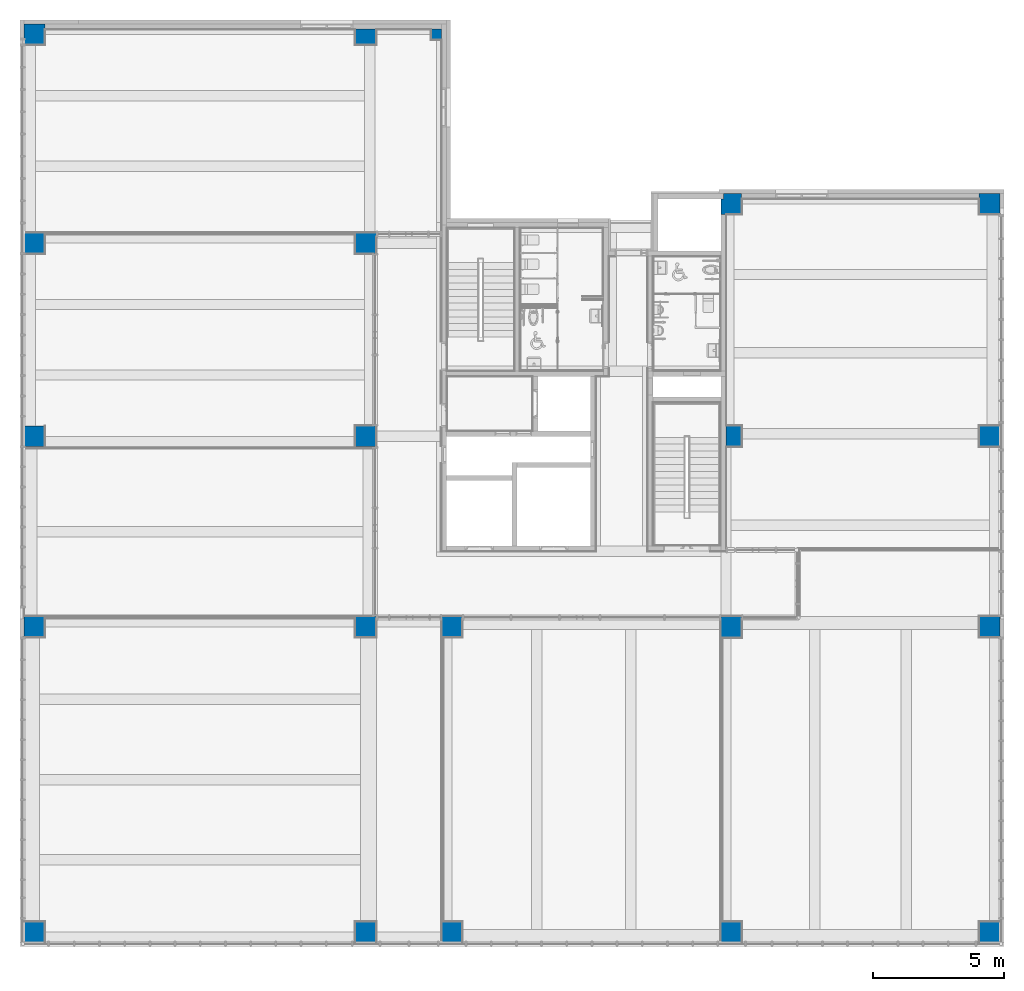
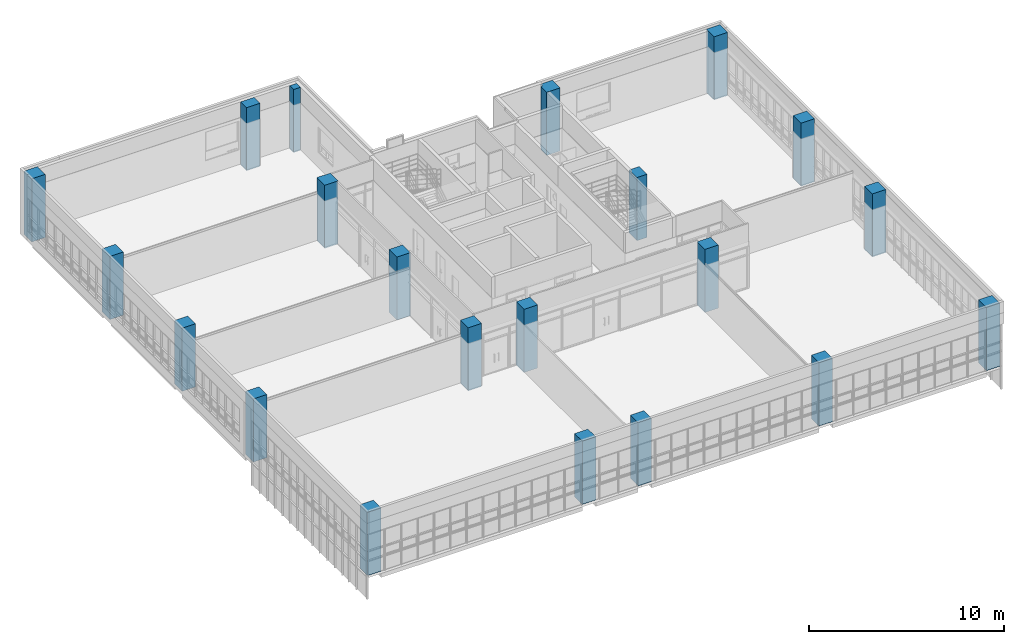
# One storey, part 1 of 81: 21 columns.
"""IFC2X3 building model written with IfcOpenShell, lengths in millimetres."""

import ifcopenshell
import ifcopenshell.guid

model = None  # the IFC model being written
_history = None  # IfcOwnerHistory: only IFC2X3 demands one
_inside = {}  # id of a spatial element -> (the spatial element, [elements in it])
_under = {}  # id of a project, library or spatial element -> (it, [spatial elements below it])
_declared = {}  # id of a project -> (the project, [libraries it declares])
_typed = {}  # id of a type object -> (the type object, [elements of that type])
_made_of = {}  # id of a material, layer set ... -> (it, [elements and type objects made of it])


def new_model(schema):
    """Start an empty IFC model of exactly this schema.

    Asked for "IFC4X3", IfcOpenShell would pick the latest addendum, in which some entities
    have other attributes; the version numbers below select the first issue.
    IFC2X3 requires an IfcOwnerHistory on every rooted entity: one is made here for all.
    """
    global model, _history
    if schema == "IFC4X3":
        model = ifcopenshell.file(schema_version=(4, 3, 0, 0))
    else:
        model = ifcopenshell.file(schema=schema)
    _inside.clear()
    _under.clear()
    _declared.clear()
    _typed.clear()
    _made_of.clear()
    _history = None
    if model.schema == "IFC2X3":
        org = make("IfcOrganization", Name="unknown")
        user = make(
            "IfcPersonAndOrganization",
            ThePerson=make("IfcPerson", FamilyName="unknown"),
            TheOrganization=org,
        )
        app = make(
            "IfcApplication",
            ApplicationDeveloper=org,
            Version="unknown",
            ApplicationFullName="unknown",
            ApplicationIdentifier="unknown",
        )
        _history = make(
            "IfcOwnerHistory",
            OwningUser=user,
            OwningApplication=app,
            ChangeAction="ADDED",
            CreationDate=0,
        )
    return model


def make(cls, **values):
    """One entity of the class cls with the attributes given. An attribute that is None is left unset."""
    return model.create_entity(
        cls, **{name: value for name, value in values.items() if value is not None}
    )


def entity(cls, *values):
    """Any entity or typed value of the class cls, its attributes in the order of the schema. None: left unset."""
    e = model.create_entity(cls)
    for i, value in enumerate(values):
        if value is not None:
            e[i] = value
    return e


def rooted(cls, **values):
    """An entity with a GlobalId (a new one), such as an element, a storey or a relation."""
    return make(cls, GlobalId=ifcopenshell.guid.new(), OwnerHistory=_history, **values)


def si_unit(unit_type, name, prefix=None):
    """IfcSIUnit, for example si_unit("LENGTHUNIT", "METRE", prefix="MILLI")."""
    return make("IfcSIUnit", UnitType=unit_type, Prefix=prefix, Name=name)


def converted_unit(unit_type, name, factor, base, dimensions=None, offset=None):
    """IfcConversionBasedUnit, such as the inch: factor (a typed value) times the base unit."""
    return make(
        "IfcConversionBasedUnit"
        if offset is None
        else "IfcConversionBasedUnitWithOffset",
        ConversionOffset=offset,
        Dimensions=None
        if dimensions is None
        else entity("IfcDimensionalExponents", *dimensions),
        UnitType=unit_type,
        Name=name,
        ConversionFactor=make(
            "IfcMeasureWithUnit", ValueComponent=factor, UnitComponent=base
        ),
    )


def derived_unit(unit_type, elements):
    """IfcDerivedUnit: a product of units, each with its exponent."""
    return make(
        "IfcDerivedUnit",
        Elements=[
            make("IfcDerivedUnitElement", Unit=unit, Exponent=power)
            for unit, power in elements
        ],
        UnitType=unit_type,
    )


def assignment(units):
    """IfcUnitAssignment: the units of a project."""
    return None if units is None else make("IfcUnitAssignment", Units=units)


def point(xyz):
    """IfcCartesianPoint."""
    return None if xyz is None else make("IfcCartesianPoint", Coordinates=xyz)


def direction(xyz):
    """IfcDirection."""
    return None if xyz is None else make("IfcDirection", DirectionRatios=xyz)


def frame(location, z_axis=None, x_axis=None):
    """IfcAxis2Placement3D, a coordinate frame: its origin and axes. An axis left out is left unset."""
    return make(
        "IfcAxis2Placement3D",
        Location=point(location),
        Axis=direction(z_axis),
        RefDirection=direction(x_axis),
    )


def frame_2d(location, x_axis=None):
    """IfcAxis2Placement2D, a coordinate frame in the plane: its origin and x axis."""
    return make(
        "IfcAxis2Placement2D", Location=point(location), RefDirection=direction(x_axis)
    )


def origin():
    """The frame at (0, 0, 0) with its axes left unset."""
    return frame((0.0, 0.0, 0.0))


def origin_2d_with_axis():
    """The frame at (0, 0) in the plane with the x axis (1, 0) written out."""
    return frame_2d((0.0, 0.0), x_axis=(1.0, 0.0))


def place(relative_to, where):
    """IfcLocalPlacement: puts the frame where relative to a parent placement (None: the world)."""
    return make(
        "IfcLocalPlacement", PlacementRelTo=relative_to, RelativePlacement=where
    )


def context(
    kind, dimensions, precision=None, world=None, true_north=None, identifier=None
):
    """IfcGeometricRepresentationContext, for example the 3D "Model" context."""
    return make(
        "IfcGeometricRepresentationContext",
        ContextIdentifier=identifier,
        ContextType=kind,
        CoordinateSpaceDimension=dimensions,
        Precision=precision,
        WorldCoordinateSystem=world,
        TrueNorth=true_north,
    )


def subcontext(parent, identifier, kind, view, scale=None):
    """IfcGeometricRepresentationSubContext, for example "Body" below "Model"."""
    return make(
        "IfcGeometricRepresentationSubContext",
        ContextIdentifier=identifier,
        ContextType=kind,
        ParentContext=parent,
        TargetScale=scale,
        TargetView=view,
    )


def project(units=None, contexts=None):
    """IfcProject with its units and contexts."""
    return rooted(
        "IfcProject",
        Name="project",
        RepresentationContexts=contexts,
        UnitsInContext=assignment(units),
    )


def spatial(cls, under=None, at=None, **own):
    """A site, building, storey or space (cls), placed at a placement, below another one or the project."""
    s = rooted(cls, ObjectPlacement=at, **own)
    if under is not None:
        _under.setdefault(under.id(), (under, []))[1].append(s)
    return s


def polyline(points):
    """IfcPolyline through the points."""
    return make("IfcPolyline", Points=[point(p) for p in points])


def profile(cls, at=None, kind="AREA", **sizes):
    """A parametric profile (cls). Its sizes go by their IFC names, for example OverallWidth=200.0."""
    return make(cls, ProfileType=kind, Position=at, **sizes)


def rectangle(**sizes):
    """IfcRectangleProfileDef."""
    return profile("IfcRectangleProfileDef", **sizes)


def outline(outer, holes=None, kind="AREA"):
    """IfcArbitraryClosedProfileDef: a profile drawn as a closed curve; with holes, ...WithVoids."""
    if holes is None:
        return make("IfcArbitraryClosedProfileDef", ProfileType=kind, OuterCurve=outer)
    return make(
        "IfcArbitraryProfileDefWithVoids",
        ProfileType=kind,
        OuterCurve=outer,
        InnerCurves=holes,
    )


def extrude(swept, where, along, depth):
    """IfcExtrudedAreaSolid: the profile swept, set in the frame where, extruded along a direction by depth."""
    return make(
        "IfcExtrudedAreaSolid",
        SweptArea=swept,
        Position=where,
        ExtrudedDirection=direction(along),
        Depth=depth,
    )


def shape(context_of_items, identifier, shape_type, items):
    """IfcShapeRepresentation: the items that make up one representation, for example the "Body"."""
    return make(
        "IfcShapeRepresentation",
        ContextOfItems=context_of_items,
        RepresentationIdentifier=identifier,
        RepresentationType=shape_type,
        Items=items,
    )


def source(mapping_origin, context_of_items, identifier, shape_type, items):
    """IfcRepresentationMap: a shape defined once, which mapped items show again and again."""
    return make(
        "IfcRepresentationMap",
        MappingOrigin=mapping_origin,
        MappedRepresentation=shape(context_of_items, identifier, shape_type, items),
    )


def transform(
    local_origin,
    x_axis=None,
    y_axis=None,
    z_axis=None,
    scale=None,
    scale2=None,
    scale3=None,
    uniform=True,
):
    """IfcCartesianTransformationOperator3D, or its non-uniform kind. x_axis, y_axis, z_axis: its Axis1, 2, 3."""
    if uniform:
        return make(
            "IfcCartesianTransformationOperator3D",
            Axis1=direction(x_axis),
            Axis2=direction(y_axis),
            LocalOrigin=point(local_origin),
            Scale=scale,
            Axis3=direction(z_axis),
        )
    return make(
        "IfcCartesianTransformationOperator3DnonUniform",
        Axis1=direction(x_axis),
        Axis2=direction(y_axis),
        LocalOrigin=point(local_origin),
        Scale=scale,
        Axis3=direction(z_axis),
        Scale2=scale2,
        Scale3=scale3,
    )


def mapped(mapping_source, mapping_target):
    """IfcMappedItem: shows the shape of a source again, moved by a transform."""
    return make(
        "IfcMappedItem", MappingSource=mapping_source, MappingTarget=mapping_target
    )


def material(Name=None, Category=None):
    """IfcMaterial."""
    return make("IfcMaterial", Name=Name, Category=Category)


def made_of(thing, what):
    """Note that an element or type object is made of a material, layer set ...; save() writes the relation."""
    if what is not None:
        _made_of.setdefault(what.id(), (what, []))[1].append(thing)
    return thing


def type_object(cls, material=None, **own):
    """A type object (cls), such as IfcWallType, which elements share."""
    return made_of(rooted(cls, **own), material)


def type_shapes(of_type, sources):
    """Give a type object the sources (RepresentationMaps) that its elements show as mapped items."""
    of_type.RepresentationMaps = sources


def element(
    cls,
    number,
    at=None,
    inside=None,
    cuts=None,
    type_object=None,
    material=None,
    context=None,
    identifier="Body",
    shape_type=None,
    held_by="IfcProductDefinitionShape",
    body=None,
    shapes=None,
    **own,
):
    """One element of the class cls, such as IfcWall. Its Tag is "e" and its number.

    at: its placement. inside: the storey or other place that contains it. cuts: it is an
    opening in that element (IfcRelVoidsElement). A single representation is given by context,
    identifier, shape_type and body (its items); several are given by shapes. held_by: the class
    of the entity that holds the representations. save() writes the other relations.
    """
    e = rooted(cls, Tag="e%d" % number, ObjectPlacement=at, **own)
    if body is not None:
        shapes = [shape(context, identifier, shape_type, body)]
    if shapes is not None:
        e.Representation = make(held_by, Representations=shapes)
    if inside is not None:
        _inside.setdefault(inside.id(), (inside, []))[1].append(e)
    if cuts is not None:
        rooted(
            "IfcRelVoidsElement", RelatingBuildingElement=cuts, RelatedOpeningElement=e
        )
    if type_object is not None:
        _typed.setdefault(type_object.id(), (type_object, []))[1].append(e)
    return made_of(e, material)


def aggregate(whole, parts):
    """IfcRelAggregates: a whole, such as a stair, and the parts it consists of."""
    return rooted("IfcRelAggregates", RelatingObject=whole, RelatedObjects=parts)


def save(model, path):
    """Write the relations noted so far, then the file.

    IfcRelAggregates (storeys below a building ...), IfcRelContainedInSpatialStructure (elements
    in a storey), IfcRelDefinesByType, IfcRelAssociatesMaterial and IfcRelDeclares: one each for
    every whole, place, type object, material and project.
    """
    for whole, parts in _under.values():
        aggregate(whole, parts)
    for where, things in _inside.values():
        rooted(
            "IfcRelContainedInSpatialStructure",
            RelatedElements=things,
            RelatingStructure=where,
        )
    for kind, things in _typed.values():
        rooted("IfcRelDefinesByType", RelatedObjects=things, RelatingType=kind)
    for what, things in _made_of.values():
        rooted("IfcRelAssociatesMaterial", RelatedObjects=things, RelatingMaterial=what)
    for by, libraries in _declared.values():
        rooted("IfcRelDeclares", RelatingContext=by, RelatedDefinitions=libraries)
    model.write(path)


model = new_model("IFC2X3")

# Units and contexts
model_context = context("Model", 3, precision=0.01, world=origin(), true_north=direction((6.123031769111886e-17, 1.0)))
body_context = subcontext(model_context, "Body", "Model", "MODEL_VIEW")
ifc_project = project(units=[si_unit("LENGTHUNIT", "METRE", prefix="MILLI"), si_unit("AREAUNIT", "SQUARE_METRE"), si_unit("VOLUMEUNIT", "CUBIC_METRE"), converted_unit("PLANEANGLEUNIT", "DEGREE", entity("IfcRatioMeasure", 0.017453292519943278), si_unit("PLANEANGLEUNIT", "RADIAN"), dimensions=[0, 0, 0, 0, 0, 0, 0]), si_unit("MASSUNIT", "GRAM", prefix="KILO"), derived_unit("MASSDENSITYUNIT", [(si_unit("MASSUNIT", "GRAM", prefix="KILO"), 1), (si_unit("LENGTHUNIT", "METRE"), -3)]), derived_unit("MOMENTOFINERTIAUNIT", [(si_unit("LENGTHUNIT", "METRE"), 4)]), si_unit("TIMEUNIT", "SECOND"), si_unit("FREQUENCYUNIT", "HERTZ"), si_unit("THERMODYNAMICTEMPERATUREUNIT", "DEGREE_CELSIUS"), derived_unit("THERMALTRANSMITTANCEUNIT", [(si_unit("MASSUNIT", "GRAM", prefix="KILO"), 1), (si_unit("THERMODYNAMICTEMPERATUREUNIT", "KELVIN"), -1), (si_unit("TIMEUNIT", "SECOND"), -3)]), derived_unit("VOLUMETRICFLOWRATEUNIT", [(si_unit("LENGTHUNIT", "METRE"), 3), (si_unit("TIMEUNIT", "SECOND"), -1)]), derived_unit("MASSFLOWRATEUNIT", [(si_unit("MASSUNIT", "GRAM", prefix="KILO"), 1), (si_unit("TIMEUNIT", "SECOND"), -1)]), derived_unit("ROTATIONALFREQUENCYUNIT", [(si_unit("TIMEUNIT", "SECOND"), -1)]), si_unit("ELECTRICCURRENTUNIT", "AMPERE"), si_unit("ELECTRICVOLTAGEUNIT", "VOLT"), si_unit("POWERUNIT", "WATT"), si_unit("FORCEUNIT", "NEWTON", prefix="KILO"), si_unit("ILLUMINANCEUNIT", "LUX"), si_unit("LUMINOUSFLUXUNIT", "LUMEN"), si_unit("LUMINOUSINTENSITYUNIT", "CANDELA"), derived_unit("USERDEFINED", [(si_unit("MASSUNIT", "GRAM", prefix="KILO"), -1), (si_unit("LENGTHUNIT", "METRE"), -2), (si_unit("TIMEUNIT", "SECOND"), 3), (si_unit("LUMINOUSFLUXUNIT", "LUMEN"), 1)]), derived_unit("SOUNDPOWERUNIT", [(si_unit("MASSUNIT", "GRAM", prefix="KILO"), 1), (si_unit("LENGTHUNIT", "METRE"), 2), (si_unit("TIMEUNIT", "SECOND"), -3)]), derived_unit("SOUNDPRESSUREUNIT", [(si_unit("MASSUNIT", "GRAM", prefix="KILO"), 1), (si_unit("LENGTHUNIT", "METRE"), -1), (si_unit("TIMEUNIT", "SECOND"), -2)]), derived_unit("LINEARVELOCITYUNIT", [(si_unit("LENGTHUNIT", "METRE"), 1), (si_unit("TIMEUNIT", "SECOND"), -1)]), si_unit("PRESSUREUNIT", "PASCAL"), derived_unit("USERDEFINED", [(si_unit("LENGTHUNIT", "METRE"), -2), (si_unit("MASSUNIT", "GRAM", prefix="KILO"), 1), (si_unit("TIMEUNIT", "SECOND"), -2)]), derived_unit("LINEARFORCEUNIT", [(si_unit("MASSUNIT", "GRAM", prefix="KILO"), 1), (si_unit("LENGTHUNIT", "METRE"), 1), (si_unit("TIMEUNIT", "SECOND"), -2), (si_unit("LENGTHUNIT", "METRE"), -1)]), derived_unit("PLANARFORCEUNIT", [(si_unit("MASSUNIT", "GRAM", prefix="KILO"), 1), (si_unit("LENGTHUNIT", "METRE"), 1), (si_unit("TIMEUNIT", "SECOND"), -2), (si_unit("LENGTHUNIT", "METRE"), -2)])], contexts=[model_context])

# Site, building, storey
site_placement = place(None, frame((-14167.972527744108, -657.2125860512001, 0.0)))
site = spatial("IfcSite", under=ifc_project, at=site_placement, Name="Default", CompositionType="ELEMENT")
building_placement = place(site_placement, origin())
building = spatial("IfcBuilding", under=site, at=building_placement, Name="Sample Building", CompositionType="ELEMENT")
storey_placement = place(building_placement, frame((0.0, 0.0, 13400.0)))
storey = spatial("IfcBuildingStorey", under=building, at=storey_placement, Name="지상 4층", CompositionType="ELEMENT", Elevation=13400.00000000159)

# Columns
ifc_material = material(Name="KBIMS-콘크리트")
column_type_1 = type_object("IfcColumnType", Name="CL111-철근콘크리트구조 기둥 (각형)1:CL111-철근콘크리트구조 기둥 (각형)_800x800_B2-7C3", PredefinedType="COLUMN", material=ifc_material)
shared_shape_1 = source(origin(), body_context, "Body", "SweptSolid", [
    extrude(rectangle(XDim=800.0, YDim=800.0, at=frame_2d((-5.684341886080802e-14, 0.0), x_axis=(1.0, 0.0))), frame((14467.955105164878, 957.2121951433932, 13400.0), z_axis=(0.0, 0.0, 1.0), x_axis=(0.0, -1.0, 0.0)), (0.0, 0.0, 1.0), 3949.999999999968),
])
type_shapes(column_type_1, [shared_shape_1])
column_1_placement = place(storey_placement, frame((0.0, 0.0, -13400.0)))
element("IfcColumn", 1, at=column_1_placement, inside=storey, type_object=column_type_1, material=ifc_material, Name="CL111-철근콘크리트구조 기둥 (각형)1:CL111-철근콘크리트구조 기둥 (각형)_800x800_B2-7C3", ObjectType="CL111-철근콘크리트구조 기둥 (각형)1:CL111-철근콘크리트구조 기둥 (각형)_800x800_B2-7C3", context=body_context, shape_type="MappedRepresentation", body=[
    mapped(shared_shape_1, transform((0.0, 0.0, 0.0), scale=1.0)),
])
column_type_2 = type_object("IfcColumnType", Name="CL111-철근콘크리트구조 기둥 (각형)1:CL111-철근콘크리트구조 기둥 (각형)_800x800_2-7C2", PredefinedType="COLUMN", material=ifc_material)
shared_shape_2 = source(origin(), body_context, "Body", "SweptSolid", [
    extrude(rectangle(XDim=800.0, YDim=800.0, at=frame_2d((-5.684341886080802e-14, 0.0), x_axis=(1.0, 0.0))), frame((27167.955141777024, 957.2121951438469, 13400.0), z_axis=(0.0, 0.0, 1.0), x_axis=(0.0, -1.0, 0.0)), (0.0, 0.0, 1.0), 3949.999999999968),
])
type_shapes(column_type_2, [shared_shape_2])
column_2_placement = place(storey_placement, frame((0.0, 0.0, -13400.0)))
element("IfcColumn", 2, at=column_2_placement, inside=storey, type_object=column_type_2, material=ifc_material, Name="CL111-철근콘크리트구조 기둥 (각형)1:CL111-철근콘크리트구조 기둥 (각형)_800x800_2-7C2", ObjectType="CL111-철근콘크리트구조 기둥 (각형)1:CL111-철근콘크리트구조 기둥 (각형)_800x800_2-7C2", context=body_context, shape_type="MappedRepresentation", body=[
    mapped(shared_shape_2, transform((0.0, 0.0, 0.0), scale=1.0)),
])
column_type_3 = type_object("IfcColumnType", Name="CL111-철근콘크리트구조 기둥 (각형)1:CL111-철근콘크리트구조 기둥 (각형)_800x800_2-7C2", PredefinedType="COLUMN", material=ifc_material)
shared_shape_3 = source(origin(), body_context, "Body", "SweptSolid", [
    extrude(rectangle(XDim=800.0, YDim=800.0, at=frame_2d((-5.684341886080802e-14, 0.0), x_axis=(1.0, 0.0))), frame((30467.95511434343, 957.2121951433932, 13400.0), z_axis=(0.0, 0.0, 1.0), x_axis=(0.0, -1.0, 0.0)), (0.0, 0.0, 1.0), 3949.999999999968),
])
type_shapes(column_type_3, [shared_shape_3])
column_3_placement = place(storey_placement, frame((0.0, 0.0, -13400.0)))
element("IfcColumn", 3, at=column_3_placement, inside=storey, type_object=column_type_3, material=ifc_material, Name="CL111-철근콘크리트구조 기둥 (각형)1:CL111-철근콘크리트구조 기둥 (각형)_800x800_2-7C2", ObjectType="CL111-철근콘크리트구조 기둥 (각형)1:CL111-철근콘크리트구조 기둥 (각형)_800x800_2-7C2", context=body_context, shape_type="MappedRepresentation", body=[
    mapped(shared_shape_3, transform((0.0, 0.0, 0.0), scale=1.0)),
])
column_type_4 = type_object("IfcColumnType", Name="CL111-철근콘크리트구조 기둥 (각형)1:CL111-철근콘크리트구조 기둥 (각형)_800x800_2-7C2", PredefinedType="COLUMN", material=ifc_material)
shared_shape_4 = source(origin(), body_context, "Body", "SweptSolid", [
    extrude(rectangle(XDim=800.0, YDim=800.0, at=frame_2d((0.0, -4.348521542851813e-12), x_axis=(1.0, 0.0))), frame((41167.955141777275, 957.2121951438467, 13400.0), z_axis=(0.0, 0.0, 1.0), x_axis=(0.0, -1.0, 0.0)), (0.0, 0.0, 1.0), 3949.999999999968),
])
type_shapes(column_type_4, [shared_shape_4])
column_4_placement = place(storey_placement, frame((0.0, 0.0, -13400.0)))
element("IfcColumn", 4, at=column_4_placement, inside=storey, type_object=column_type_4, material=ifc_material, Name="CL111-철근콘크리트구조 기둥 (각형)1:CL111-철근콘크리트구조 기둥 (각형)_800x800_2-7C2", ObjectType="CL111-철근콘크리트구조 기둥 (각형)1:CL111-철근콘크리트구조 기둥 (각형)_800x800_2-7C2", context=body_context, shape_type="MappedRepresentation", body=[
    mapped(shared_shape_4, transform((0.0, 0.0, 0.0), scale=1.0)),
])
column_type_5 = type_object("IfcColumnType", Name="CL111-철근콘크리트구조 기둥 (각형)1:CL111-철근콘크리트구조 기둥 (각형)_800x800_B2-7C3", PredefinedType="COLUMN", material=ifc_material)
shared_shape_5 = source(origin(), body_context, "Body", "SweptSolid", [
    extrude(rectangle(XDim=800.0, YDim=800.0, at=frame_2d((0.0, -4.348521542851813e-12), x_axis=(1.0, 0.0))), frame((51067.96383810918, 957.2126170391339, 13400.0), z_axis=(0.0, 0.0, 1.0), x_axis=(0.0, -1.0, 0.0)), (0.0, 0.0, 1.0), 3949.999999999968),
])
type_shapes(column_type_5, [shared_shape_5])
column_5_placement = place(storey_placement, frame((0.0, 0.0, -13400.0)))
element("IfcColumn", 5, at=column_5_placement, inside=storey, type_object=column_type_5, material=ifc_material, Name="CL111-철근콘크리트구조 기둥 (각형)1:CL111-철근콘크리트구조 기둥 (각형)_800x800_B2-7C3", ObjectType="CL111-철근콘크리트구조 기둥 (각형)1:CL111-철근콘크리트구조 기둥 (각형)_800x800_B2-7C3", context=body_context, shape_type="MappedRepresentation", body=[
    mapped(shared_shape_5, transform((0.0, 0.0, 0.0), scale=1.0)),
])
column_type_6 = type_object("IfcColumnType", Name="CL111-철근콘크리트구조 기둥 (각형)1:CL111-철근콘크리트구조 기둥 (각형)_800x800_2-7C2", PredefinedType="COLUMN", material=ifc_material)
shared_shape_6 = source(origin(), body_context, "Body", "SweptSolid", [
    extrude(rectangle(XDim=800.0000000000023, YDim=800.0000000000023, at=origin_2d_with_axis()), frame((14467.95510516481, 12657.21261703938, 13400.0), z_axis=(0.0, 0.0, 1.0), x_axis=(0.0, -1.0, 0.0)), (0.0, 0.0, 1.0), 3949.999999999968),
])
type_shapes(column_type_6, [shared_shape_6])
column_6_placement = place(storey_placement, frame((0.0, 0.0, -13400.0)))
element("IfcColumn", 6, at=column_6_placement, inside=storey, type_object=column_type_6, material=ifc_material, Name="CL111-철근콘크리트구조 기둥 (각형)1:CL111-철근콘크리트구조 기둥 (각형)_800x800_2-7C2", ObjectType="CL111-철근콘크리트구조 기둥 (각형)1:CL111-철근콘크리트구조 기둥 (각형)_800x800_2-7C2", context=body_context, shape_type="MappedRepresentation", body=[
    mapped(shared_shape_6, transform((0.0, 0.0, 0.0), scale=1.0)),
])
column_type_7 = type_object("IfcColumnType", Name="CL111-철근콘크리트구조 기둥 (각형)1:CL111-철근콘크리트구조 기둥 (각형)_800x800_2-7C2", PredefinedType="COLUMN", material=ifc_material)
shared_shape_7 = source(origin(), body_context, "Body", "SweptSolid", [
    extrude(rectangle(XDim=800.0, YDim=800.0, at=origin_2d_with_axis()), frame((27167.955141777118, 12657.21261703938, 13400.0), z_axis=(0.0, 0.0, 1.0), x_axis=(0.0, -1.0, 0.0)), (0.0, 0.0, 1.0), 3949.999999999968),
])
type_shapes(column_type_7, [shared_shape_7])
column_7_placement = place(storey_placement, frame((0.0, 0.0, -13400.0)))
element("IfcColumn", 7, at=column_7_placement, inside=storey, type_object=column_type_7, material=ifc_material, Name="CL111-철근콘크리트구조 기둥 (각형)1:CL111-철근콘크리트구조 기둥 (각형)_800x800_2-7C2", ObjectType="CL111-철근콘크리트구조 기둥 (각형)1:CL111-철근콘크리트구조 기둥 (각형)_800x800_2-7C2", context=body_context, shape_type="MappedRepresentation", body=[
    mapped(shared_shape_7, transform((0.0, 0.0, 0.0), scale=1.0)),
])
column_type_8 = type_object("IfcColumnType", Name="CL111-철근콘크리트구조 기둥 (각형)1:CL111-철근콘크리트구조 기둥 (각형)_800x800_2-7C2", PredefinedType="COLUMN", material=ifc_material)
shared_shape_8 = source(origin(), body_context, "Body", "SweptSolid", [
    extrude(rectangle(XDim=800.0, YDim=800.0, at=origin_2d_with_axis()), frame((30467.95511434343, 12657.21261703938, 13400.0), z_axis=(0.0, 0.0, 1.0), x_axis=(0.0, -1.0, 0.0)), (0.0, 0.0, 1.0), 3949.999999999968),
])
type_shapes(column_type_8, [shared_shape_8])
column_8_placement = place(storey_placement, frame((0.0, 0.0, -13400.0)))
element("IfcColumn", 8, at=column_8_placement, inside=storey, type_object=column_type_8, material=ifc_material, Name="CL111-철근콘크리트구조 기둥 (각형)1:CL111-철근콘크리트구조 기둥 (각형)_800x800_2-7C2", ObjectType="CL111-철근콘크리트구조 기둥 (각형)1:CL111-철근콘크리트구조 기둥 (각형)_800x800_2-7C2", context=body_context, shape_type="MappedRepresentation", body=[
    mapped(shared_shape_8, transform((0.0, 0.0, 0.0), scale=1.0)),
])
column_type_9 = type_object("IfcColumnType", Name="CL111-철근콘크리트구조 기둥 (각형)1:CL111-철근콘크리트구조 기둥 (각형)_800x800_2-7C2", PredefinedType="COLUMN", material=ifc_material)
shared_shape_9 = source(origin(), body_context, "Body", "SweptSolid", [
    extrude(rectangle(XDim=800.0, YDim=800.0, at=frame_2d((0.0, -4.348521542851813e-12), x_axis=(1.0, 0.0))), frame((41167.955141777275, 12657.212617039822, 13400.0), z_axis=(0.0, 0.0, 1.0), x_axis=(0.0, -1.0, 0.0)), (0.0, 0.0, 1.0), 3949.999999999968),
])
type_shapes(column_type_9, [shared_shape_9])
column_9_placement = place(storey_placement, frame((0.0, 0.0, -13400.0)))
element("IfcColumn", 9, at=column_9_placement, inside=storey, type_object=column_type_9, material=ifc_material, Name="CL111-철근콘크리트구조 기둥 (각형)1:CL111-철근콘크리트구조 기둥 (각형)_800x800_2-7C2", ObjectType="CL111-철근콘크리트구조 기둥 (각형)1:CL111-철근콘크리트구조 기둥 (각형)_800x800_2-7C2", context=body_context, shape_type="MappedRepresentation", body=[
    mapped(shared_shape_9, transform((0.0, 0.0, 0.0), scale=1.0)),
])
column_type_10 = type_object("IfcColumnType", Name="CL111-철근콘크리트구조 기둥 (각형)1:CL111-철근콘크리트구조 기둥 (각형)_800x800_2-7C2", PredefinedType="COLUMN", material=ifc_material)
shared_shape_10 = source(origin(), body_context, "Body", "SweptSolid", [
    extrude(rectangle(XDim=800.0000000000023, YDim=800.0, at=frame_2d((0.0, 4.348521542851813e-12), x_axis=(1.0, 0.0))), frame((51067.95513594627, 12657.213038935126, 13400.0), z_axis=(0.0, 0.0, 1.0), x_axis=(0.0, -1.0, 0.0)), (0.0, 0.0, 1.0), 3949.999999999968),
])
type_shapes(column_type_10, [shared_shape_10])
column_10_placement = place(storey_placement, frame((0.0, 0.0, -13400.0)))
element("IfcColumn", 10, at=column_10_placement, inside=storey, type_object=column_type_10, material=ifc_material, Name="CL111-철근콘크리트구조 기둥 (각형)1:CL111-철근콘크리트구조 기둥 (각형)_800x800_2-7C2", ObjectType="CL111-철근콘크리트구조 기둥 (각형)1:CL111-철근콘크리트구조 기둥 (각형)_800x800_2-7C2", context=body_context, shape_type="MappedRepresentation", body=[
    mapped(shared_shape_10, transform((0.0, 0.0, 0.0), scale=1.0)),
])
column_type_11 = type_object("IfcColumnType", Name="CL111-철근콘크리트구조 기둥 (각형)1:CL111-철근콘크리트구조 기둥 (각형)_800x800_2-7C2", PredefinedType="COLUMN", material=ifc_material)
shared_shape_11 = source(origin(), body_context, "Body", "SweptSolid", [
    extrude(rectangle(XDim=800.0, YDim=800.0000000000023, at=origin_2d_with_axis()), frame((14467.955105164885, 19957.21261703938, 13400.0), z_axis=(0.0, 0.0, 1.0), x_axis=(0.0, -1.0, 0.0)), (0.0, 0.0, 1.0), 3949.999999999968),
])
type_shapes(column_type_11, [shared_shape_11])
column_11_placement = place(storey_placement, frame((0.0, 0.0, -13400.0)))
element("IfcColumn", 11, at=column_11_placement, inside=storey, type_object=column_type_11, material=ifc_material, Name="CL111-철근콘크리트구조 기둥 (각형)1:CL111-철근콘크리트구조 기둥 (각형)_800x800_2-7C2", ObjectType="CL111-철근콘크리트구조 기둥 (각형)1:CL111-철근콘크리트구조 기둥 (각형)_800x800_2-7C2", context=body_context, shape_type="MappedRepresentation", body=[
    mapped(shared_shape_11, transform((0.0, 0.0, 0.0), scale=1.0)),
])
column_type_12 = type_object("IfcColumnType", Name="CL111-철근콘크리트구조 기둥 (각형)1:CL111-철근콘크리트구조 기둥 (각형)_800x800_2-7C2", PredefinedType="COLUMN", material=ifc_material)
shared_shape_12 = source(origin(), body_context, "Body", "SweptSolid", [
    extrude(rectangle(XDim=800.0, YDim=800.0, at=origin_2d_with_axis()), frame((27167.95514177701, 19957.212617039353, 13400.0), z_axis=(0.0, 0.0, 1.0), x_axis=(0.0, -1.0, 0.0)), (0.0, 0.0, 1.0), 3949.999999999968),
])
type_shapes(column_type_12, [shared_shape_12])
column_12_placement = place(storey_placement, frame((0.0, 0.0, -13400.0)))
element("IfcColumn", 12, at=column_12_placement, inside=storey, type_object=column_type_12, material=ifc_material, Name="CL111-철근콘크리트구조 기둥 (각형)1:CL111-철근콘크리트구조 기둥 (각형)_800x800_2-7C2", ObjectType="CL111-철근콘크리트구조 기둥 (각형)1:CL111-철근콘크리트구조 기둥 (각형)_800x800_2-7C2", context=body_context, shape_type="MappedRepresentation", body=[
    mapped(shared_shape_12, transform((0.0, 0.0, 0.0), scale=1.0)),
])
column_type_13 = type_object("IfcColumnType", Name="CL111-철근콘크리트구조 기둥 (각형)1:CL111-철근콘크리트구조 기둥 (각형)_800x800_B2-4C1", PredefinedType="COLUMN", material=ifc_material)
shared_shape_13 = source(origin(), body_context, "Body", "SweptSolid", [
    extrude(rectangle(XDim=800.0, YDim=599.9913238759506, at=origin_2d_with_axis()), frame((41267.959460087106, 19957.21261703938, 13400.0), z_axis=(0.0, 0.0, 1.0), x_axis=(0.0, -1.0, 0.0)), (0.0, 0.0, 1.0), 3949.999999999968),
])
type_shapes(column_type_13, [shared_shape_13])
column_13_placement = place(storey_placement, frame((0.0, 0.0, -13400.0)))
element("IfcColumn", 13, at=column_13_placement, inside=storey, type_object=column_type_13, material=ifc_material, Name="CL111-철근콘크리트구조 기둥 (각형)1:CL111-철근콘크리트구조 기둥 (각형)_800x800_B2-4C1", ObjectType="CL111-철근콘크리트구조 기둥 (각형)1:CL111-철근콘크리트구조 기둥 (각형)_800x800_B2-4C1", context=body_context, shape_type="MappedRepresentation", body=[
    mapped(shared_shape_13, transform((0.0, 0.0, 0.0), scale=1.0)),
])
column_type_14 = type_object("IfcColumnType", Name="CL111-철근콘크리트구조 기둥 (각형)1:CL111-철근콘크리트구조 기둥 (각형)_800x800_B2-4C1", PredefinedType="COLUMN", material=ifc_material)
shared_shape_14 = source(origin(), body_context, "Body", "SweptSolid", [
    extrude(rectangle(XDim=800.0, YDim=800.0, at=frame_2d((0.0, -4.348521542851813e-12), x_axis=(1.0, 0.0))), frame((51067.963865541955, 19957.21261703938, 13400.0), z_axis=(0.0, 0.0, 1.0), x_axis=(0.0, -1.0, 0.0)), (0.0, 0.0, 1.0), 3949.999999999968),
])
type_shapes(column_type_14, [shared_shape_14])
column_14_placement = place(storey_placement, frame((0.0, 0.0, -13400.0)))
element("IfcColumn", 14, at=column_14_placement, inside=storey, type_object=column_type_14, material=ifc_material, Name="CL111-철근콘크리트구조 기둥 (각형)1:CL111-철근콘크리트구조 기둥 (각형)_800x800_B2-4C1", ObjectType="CL111-철근콘크리트구조 기둥 (각형)1:CL111-철근콘크리트구조 기둥 (각형)_800x800_B2-4C1", context=body_context, shape_type="MappedRepresentation", body=[
    mapped(shared_shape_14, transform((0.0, 0.0, 0.0), scale=1.0)),
])
column_type_15 = type_object("IfcColumnType", Name="CL111-철근콘크리트구조 기둥 (각형)1:CL111-철근콘크리트구조 기둥 (각형)_800x800_2-7C2", PredefinedType="COLUMN", material=ifc_material)
shared_shape_15 = source(origin(), body_context, "Body", "SweptSolid", [
    extrude(rectangle(XDim=800.0, YDim=800.0000000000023, at=origin_2d_with_axis()), frame((14467.95510516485, 27357.212617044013, 13400.0), z_axis=(0.0, 0.0, 1.0), x_axis=(0.0, -1.0, 0.0)), (0.0, 0.0, 1.0), 3949.999999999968),
])
type_shapes(column_type_15, [shared_shape_15])
column_15_placement = place(storey_placement, frame((0.0, 0.0, -13400.0)))
element("IfcColumn", 15, at=column_15_placement, inside=storey, type_object=column_type_15, material=ifc_material, Name="CL111-철근콘크리트구조 기둥 (각형)1:CL111-철근콘크리트구조 기둥 (각형)_800x800_2-7C2", ObjectType="CL111-철근콘크리트구조 기둥 (각형)1:CL111-철근콘크리트구조 기둥 (각형)_800x800_2-7C2", context=body_context, shape_type="MappedRepresentation", body=[
    mapped(shared_shape_15, transform((0.0, 0.0, 0.0), scale=1.0)),
])
column_type_16 = type_object("IfcColumnType", Name="CL111-철근콘크리트구조 기둥 (각형)1:CL111-철근콘크리트구조 기둥 (각형)_800x800_2-7C2", PredefinedType="COLUMN", material=ifc_material)
shared_shape_16 = source(origin(), body_context, "Body", "SweptSolid", [
    extrude(rectangle(XDim=800.0, YDim=800.0, at=origin_2d_with_axis()), frame((27167.955141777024, 27357.212617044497, 13400.0), z_axis=(0.0, 0.0, 1.0), x_axis=(0.0, -1.0, 0.0)), (0.0, 0.0, 1.0), 3949.999999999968),
])
type_shapes(column_type_16, [shared_shape_16])
column_16_placement = place(storey_placement, frame((0.0, 0.0, -13400.0)))
element("IfcColumn", 16, at=column_16_placement, inside=storey, type_object=column_type_16, material=ifc_material, Name="CL111-철근콘크리트구조 기둥 (각형)1:CL111-철근콘크리트구조 기둥 (각형)_800x800_2-7C2", ObjectType="CL111-철근콘크리트구조 기둥 (각형)1:CL111-철근콘크리트구조 기둥 (각형)_800x800_2-7C2", context=body_context, shape_type="MappedRepresentation", body=[
    mapped(shared_shape_16, transform((0.0, 0.0, 0.0), scale=1.0)),
])
column_type_17 = type_object("IfcColumnType", Name="CL111-철근콘크리트구조 기둥 (각형)1:CL111-철근콘크리트구조 기둥 (각형)_800x800_B2-4C1", PredefinedType="COLUMN", material=ifc_material)
shared_shape_17 = source(origin(), body_context, "Body", "SweptSolid", [
    extrude(outline(polyline([(-99.99984868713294, -424.7565014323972), (499.9998422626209, -424.7565014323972), (499.9998422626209, 375.24349856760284), (-99.99983583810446, 375.24349856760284), (-99.99983583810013, 374.26084792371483), (-300.00015773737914, 374.26084792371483), (-300.00015773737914, -324.7478450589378), (-99.99984868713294, -324.7478450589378), (-99.99984868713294, -424.7565014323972)])), frame((41192.711643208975, 28957.212459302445, 13400.0), z_axis=(0.0, 0.0, 1.0), x_axis=(0.0, -1.0, 0.0)), (0.0, 0.0, 1.0), 3950.0000000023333),
])
type_shapes(column_type_17, [shared_shape_17])
column_17_placement = place(storey_placement, frame((0.0, 0.0, -13400.0)))
element("IfcColumn", 17, at=column_17_placement, inside=storey, type_object=column_type_17, material=ifc_material, Name="CL111-철근콘크리트구조 기둥 (각형)1:CL111-철근콘크리트구조 기둥 (각형)_800x800_B2-4C1", ObjectType="CL111-철근콘크리트구조 기둥 (각형)1:CL111-철근콘크리트구조 기둥 (각형)_800x800_B2-4C1", context=body_context, shape_type="MappedRepresentation", body=[
    mapped(shared_shape_17, transform((0.0, 0.0, 0.0), scale=1.0)),
])
column_type_18 = type_object("IfcColumnType", Name="CL111-철근콘크리트구조 기둥 (각형)1:CL111-철근콘크리트구조 기둥 (각형)_800x800_B2-4C1", PredefinedType="COLUMN", material=ifc_material)
shared_shape_18 = source(origin(), body_context, "Body", "SweptSolid", [
    extrude(rectangle(XDim=800.0, YDim=800.0, at=frame_2d((0.0, -4.348521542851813e-12), x_axis=(1.0, 0.0))), frame((51067.963865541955, 28857.212704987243, 13400.0), z_axis=(0.0, 0.0, 1.0), x_axis=(0.0, -1.0, 0.0)), (0.0, 0.0, 1.0), 3949.999999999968),
])
type_shapes(column_type_18, [shared_shape_18])
column_18_placement = place(storey_placement, frame((0.0, 0.0, -13400.0)))
element("IfcColumn", 18, at=column_18_placement, inside=storey, type_object=column_type_18, material=ifc_material, Name="CL111-철근콘크리트구조 기둥 (각형)1:CL111-철근콘크리트구조 기둥 (각형)_800x800_B2-4C1", ObjectType="CL111-철근콘크리트구조 기둥 (각형)1:CL111-철근콘크리트구조 기둥 (각형)_800x800_B2-4C1", context=body_context, shape_type="MappedRepresentation", body=[
    mapped(shared_shape_18, transform((0.0, 0.0, 0.0), scale=1.0)),
])
column_type_19 = type_object("IfcColumnType", Name="CL111-철근콘크리트구조 기둥 (각형)1:CL111-철근콘크리트구조 기둥 (각형)_800x800_B2-7C3", PredefinedType="COLUMN", material=ifc_material)
shared_shape_19 = source(origin(), body_context, "Body", "SweptSolid", [
    extrude(rectangle(XDim=800.0, YDim=800.0, at=origin_2d_with_axis()), frame((14467.955105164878, 35357.21258960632, 13400.0), z_axis=(0.0, 0.0, 1.0), x_axis=(0.0, -1.0, 0.0)), (0.0, 0.0, 1.0), 3949.999999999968),
])
type_shapes(column_type_19, [shared_shape_19])
column_19_placement = place(storey_placement, frame((0.0, 0.0, -13400.0)))
element("IfcColumn", 19, at=column_19_placement, inside=storey, type_object=column_type_19, material=ifc_material, Name="CL111-철근콘크리트구조 기둥 (각형)1:CL111-철근콘크리트구조 기둥 (각형)_800x800_B2-7C3", ObjectType="CL111-철근콘크리트구조 기둥 (각형)1:CL111-철근콘크리트구조 기둥 (각형)_800x800_B2-7C3", context=body_context, shape_type="MappedRepresentation", body=[
    mapped(shared_shape_19, transform((0.0, 0.0, 0.0), scale=1.0)),
])
column_type_20 = type_object("IfcColumnType", Name="CL111-철근콘크리트구조 기둥 (각형)1:CL111-철근콘크리트구조 기둥 (각형)_800x800_2-7C2", PredefinedType="COLUMN", material=ifc_material)
shared_shape_20 = source(origin(), body_context, "Body", "SweptSolid", [
    extrude(rectangle(XDim=599.9997055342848, YDim=800.0, at=frame_2d((2.1600499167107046e-12, 0.0), x_axis=(1.0, 0.0))), frame((27167.955141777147, 35257.21244237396, 13400.0), z_axis=(0.0, 0.0, 1.0), x_axis=(0.0, -1.0, 0.0)), (0.0, 0.0, 1.0), 3949.999999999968),
])
type_shapes(column_type_20, [shared_shape_20])
column_20_placement = place(storey_placement, frame((0.0, 0.0, -13400.0)))
element("IfcColumn", 20, at=column_20_placement, inside=storey, type_object=column_type_20, material=ifc_material, Name="CL111-철근콘크리트구조 기둥 (각형)1:CL111-철근콘크리트구조 기둥 (각형)_800x800_2-7C2", ObjectType="CL111-철근콘크리트구조 기둥 (각형)1:CL111-철근콘크리트구조 기둥 (각형)_800x800_2-7C2", context=body_context, shape_type="MappedRepresentation", body=[
    mapped(shared_shape_20, transform((0.0, 0.0, 0.0), scale=1.0)),
])
column_type_21 = type_object("IfcColumnType", Name="CL111-철근콘크리트구조 기둥 (각형)1:CL111-철근콘크리트구조 기둥 (각형)_600x600_B2-10C4", PredefinedType="COLUMN", material=ifc_material)
shared_shape_21 = source(origin(), body_context, "Body", "SweptSolid", [
    extrude(rectangle(XDim=399.9996781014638, YDim=400.01734935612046, at=frame_2d((-2.1600499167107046e-12, -2.1600499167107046e-12), x_axis=(1.0, 0.0))), frame((29867.955086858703, 35357.212456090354, 13400.0), z_axis=(0.0, 0.0, 1.0), x_axis=(0.0, -1.0, 0.0)), (0.0, 0.0, 1.0), 3949.999999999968),
])
type_shapes(column_type_21, [shared_shape_21])
column_21_placement = place(storey_placement, frame((0.0, 0.0, -13400.0)))
element("IfcColumn", 21, at=column_21_placement, inside=storey, type_object=column_type_21, material=ifc_material, Name="CL111-철근콘크리트구조 기둥 (각형)1:CL111-철근콘크리트구조 기둥 (각형)_600x600_B2-10C4", ObjectType="CL111-철근콘크리트구조 기둥 (각형)1:CL111-철근콘크리트구조 기둥 (각형)_600x600_B2-10C4", context=body_context, shape_type="MappedRepresentation", body=[
    mapped(shared_shape_21, transform((0.0, 0.0, 0.0), scale=1.0)),
])

save(model, "model.ifc")
